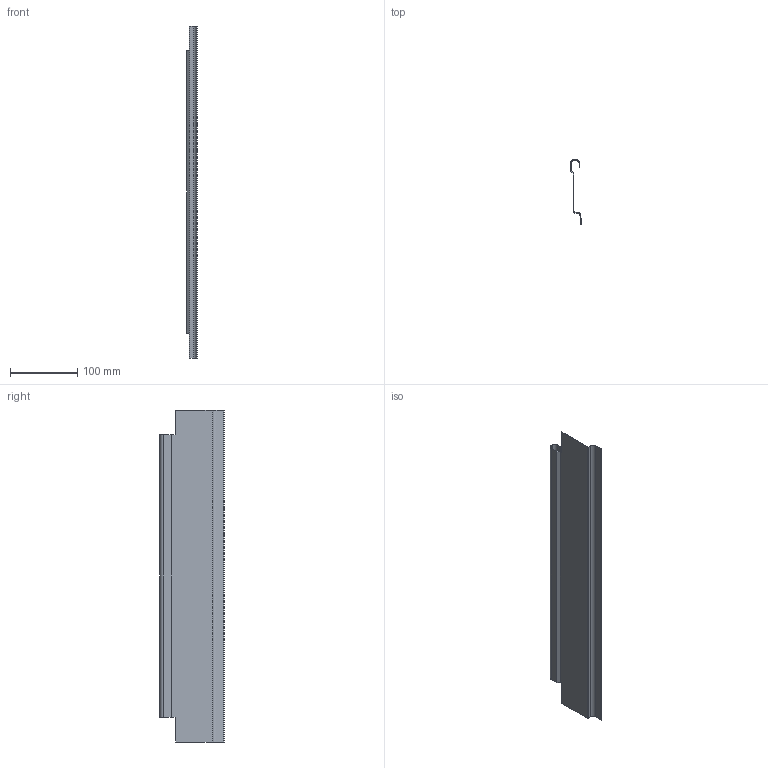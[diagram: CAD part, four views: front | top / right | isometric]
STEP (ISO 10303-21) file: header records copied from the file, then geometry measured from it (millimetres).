
FILE_DESCRIPTION (( 'STEP AP214' ), '1' );
FILE_NAME ('_Solowing NL525.step', '2010-07-14T13:31:57', ( 'grass' ), ( '' ), 'SwSTEP 2.0', 'SolidWorks 2010', '' );
FILE_SCHEMA (( 'AUTOMOTIVE_DESIGN' ));
Length unit declared in the file: millimetre
Products named in the file (1): _Solowing NL525
Bounding box: 16.3 x 96 x 493 mm (x, y, z)
Volume: 46288 mm3; surface area: 116707 mm2
Topology: 1 solids, 1 shells, 46 faces, 108 edges, 64 vertices
Faces by surface type: plane 36, cylinder 10
Entity records: 1314 total; most frequent: DIRECTION 222, CARTESIAN_POINT 219, ORIENTED_EDGE 216, EDGE_CURVE 108, LINE 88, VECTOR 88, AXIS2_PLACEMENT_3D 67, VERTEX_POINT 64
